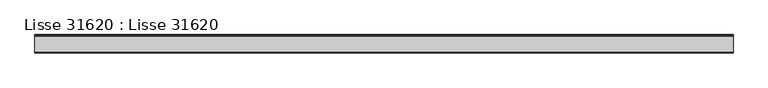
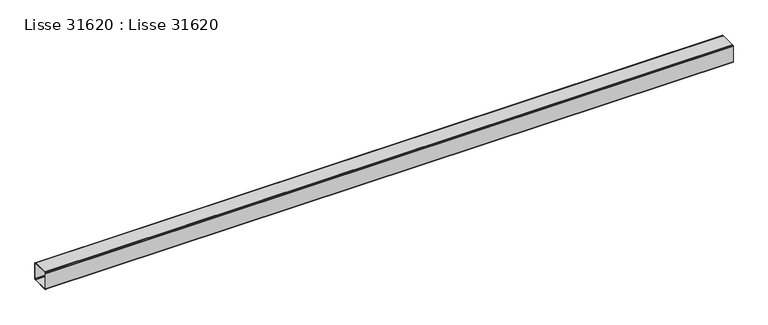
"""IFC4 building model written with IfcOpenShell, lengths in millimetres: beam geometry, Lisse 31620 : Lisse 31620."""

from ifc_helpers import new_model, si_unit, frame, origin, place, context, project, spatial, polyline, outline, extrude, source, transform, mapped, element, save


def lisse_31620_lisse_31620_59e303d5(model_context):
    return source(origin(), model_context, "Body", "SweptSolid", [
        extrude(outline(polyline([(-29002.45, 8321.9318113), (-29000.2538476, 8319.7356589), (-28999.45, 8316.7356589), (-28999.45, 8228.7356589), (-29000.2538476, 8225.7356589), (-29002.45, 8223.5395065), (-29005.45, 8222.7356589), (-29093.45, 8222.7356589), (-29096.45, 8223.5395065), (-29098.6461524, 8225.7356589), (-29099.45, 8228.7356589), (-29099.45, 8316.7356589), (-29098.6461524, 8319.7356589), (-29096.45, 8321.9318113), (-29093.45, 8322.7356589), (-29005.45, 8322.7356589), (-29002.45, 8321.9318113)]), holes=[polyline([(-29094.9141016, 8228.7356589), (-29093.45, 8227.2715573), (-29091.45, 8226.7356589), (-29007.45, 8226.7356589), (-29005.45, 8227.2715573), (-29003.9858984, 8228.7356589), (-29003.45, 8230.7356589), (-29003.45, 8314.7356589), (-29003.9858984, 8316.7356589), (-29005.45, 8318.1997605), (-29007.45, 8318.7356589), (-29091.45, 8318.7356589), (-29093.45, 8318.1997605), (-29094.9141016, 8316.7356589), (-29095.45, 8314.7356589), (-29095.45, 8230.7356589), (-29094.9141016, 8228.7356589)])]), frame((3772.4999999, 0.0, 0.0), z_axis=(1.0, 0.0, 0.0), x_axis=(0.0, 1.0, 0.0)), (0.0, 0.0, 1.0), 3772.5),
    ])


if __name__ == "__main__":
    model = new_model("IFC4")
    model_context = context("Model", 3, world=origin())
    ifc_project = project(units=[si_unit("LENGTHUNIT", "METRE", prefix="MILLI")], contexts=[model_context])
    site = spatial("IfcSite", under=ifc_project)
    building = spatial("IfcBuilding", under=site)
    placement = place(None, origin())
    lisse_31620_lisse_31620_shape = lisse_31620_lisse_31620_59e303d5(model_context)
    element("IfcBeam", 1, ObjectType="Lisse 31620 : Lisse 31620", at=placement, inside=building, context=model_context, shape_type="MappedRepresentation", body=[
        mapped(lisse_31620_lisse_31620_shape, transform((0.0, 0.0, 0.0), x_axis=(1.0, 0.0, 0.0), y_axis=(0.0, 1.0, 0.0), z_axis=(0.0, 0.0, 1.0))),
    ])
    save(model, "model.ifc")
